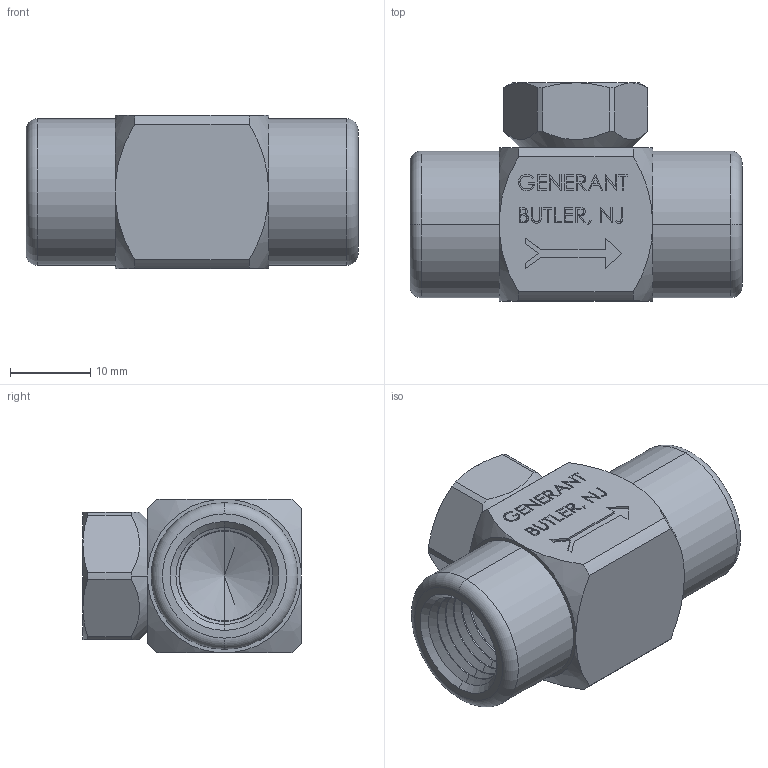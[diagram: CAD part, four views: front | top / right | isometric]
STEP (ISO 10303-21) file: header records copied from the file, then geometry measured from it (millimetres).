
FILE_DESCRIPTION (( 'STEP AP203' ), '1' );
FILE_NAME ('5000-4.STEP', '2016-12-20T20:18:56', ( '' ), ( '' ), 'SwSTEP 2.0', 'SolidWorks 2011', '' );
FILE_SCHEMA (( 'CONFIG_CONTROL_DESIGN' ));
Length unit declared in the file: inch
Products named in the file (2): 5000-4; Part4^5000-4_CM
Assembly tree (1 placements, depth 2):
  5000-4
    Part4^5000-4_CM
Bounding box: 41.27 x 27.12 x 19.05 mm (x, y, z)
Volume: 11513.2 mm3; surface area: 5099.7 mm2
Topology: 1 solids, 1 shells, 376 faces, 930 edges, 580 vertices
Faces by surface type: plane 198, cone 96, bspline 40, cylinder 30, sphere 8, torus 4
Entity records: 13478 total; most frequent: CARTESIAN_POINT 4592, ORIENTED_EDGE 1852, DIRECTION 1682, EDGE_CURVE 926, VECTOR 654, LINE 654, VERTEX_POINT 580, AXIS2_PLACEMENT_3D 514
